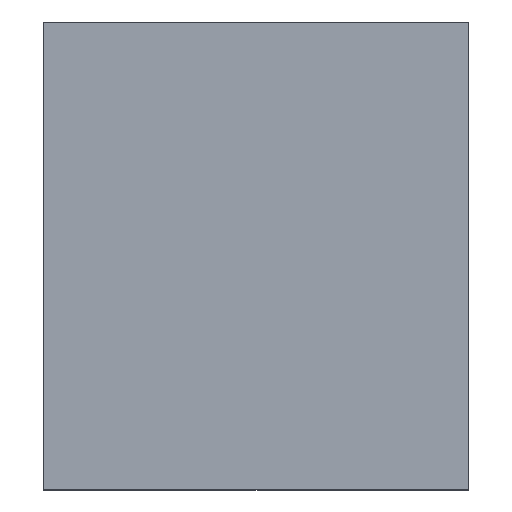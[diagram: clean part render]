
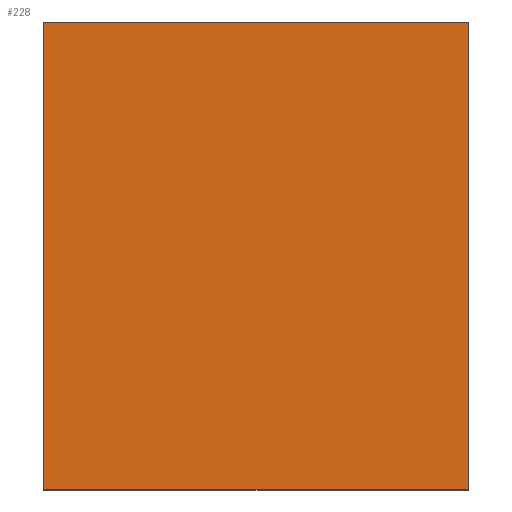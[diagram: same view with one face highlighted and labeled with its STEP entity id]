
A CAD part, top view. The second image highlights one B-rep face of the part: STEP entity #228.
In plain terms, the highlighted planar face has unit normal (0, 0, 1).
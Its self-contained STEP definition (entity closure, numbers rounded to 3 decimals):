
#20=PLANE('',#258);
#32=FACE_OUTER_BOUND('',#44,.T.);
#44=EDGE_LOOP('',(#175,#176,#177,#178));
#62=LINE('',#348,#88);
#63=LINE('',#351,#89);
#64=LINE('',#353,#90);
#65=LINE('',#354,#91);
#88=VECTOR('',#288,10.);
#89=VECTOR('',#291,10.);
#90=VECTOR('',#292,10.);
#91=VECTOR('',#293,10.);
#117=VERTEX_POINT('',#341);
#120=VERTEX_POINT('',#346);
#121=VERTEX_POINT('',#350);
#122=VERTEX_POINT('',#352);
#142=EDGE_CURVE('',#117,#120,#62,.F.);
#143=EDGE_CURVE('',#121,#117,#63,.T.);
#144=EDGE_CURVE('',#122,#120,#64,.T.);
#145=EDGE_CURVE('',#121,#122,#65,.F.);
#175=ORIENTED_EDGE('',*,*,#143,.T.);
#176=ORIENTED_EDGE('',*,*,#142,.T.);
#177=ORIENTED_EDGE('',*,*,#144,.F.);
#178=ORIENTED_EDGE('',*,*,#145,.F.);
#228=ADVANCED_FACE('',(#32),#20,.T.);
#258=AXIS2_PLACEMENT_3D('',#349,#289,#290);
#288=DIRECTION('',(-1.,0.,0.));
#289=DIRECTION('center_axis',(0.,0.,1.));
#290=DIRECTION('ref_axis',(0.,-1.,0.));
#291=DIRECTION('',(0.,-1.,0.));
#292=DIRECTION('',(0.,-1.,0.));
#293=DIRECTION('',(-1.,0.,0.));
#341=CARTESIAN_POINT('',(0.,-6.,43.5));
#346=CARTESIAN_POINT('',(70.,-6.,43.5));
#348=CARTESIAN_POINT('',(0.,-6.,43.5));
#349=CARTESIAN_POINT('Origin',(0.,65.,43.5));
#350=CARTESIAN_POINT('',(0.,71.,43.5));
#351=CARTESIAN_POINT('',(0.,65.,43.5));
#352=CARTESIAN_POINT('',(70.,71.,43.5));
#353=CARTESIAN_POINT('',(70.,65.,43.5));
#354=CARTESIAN_POINT('',(0.,71.,43.5));
